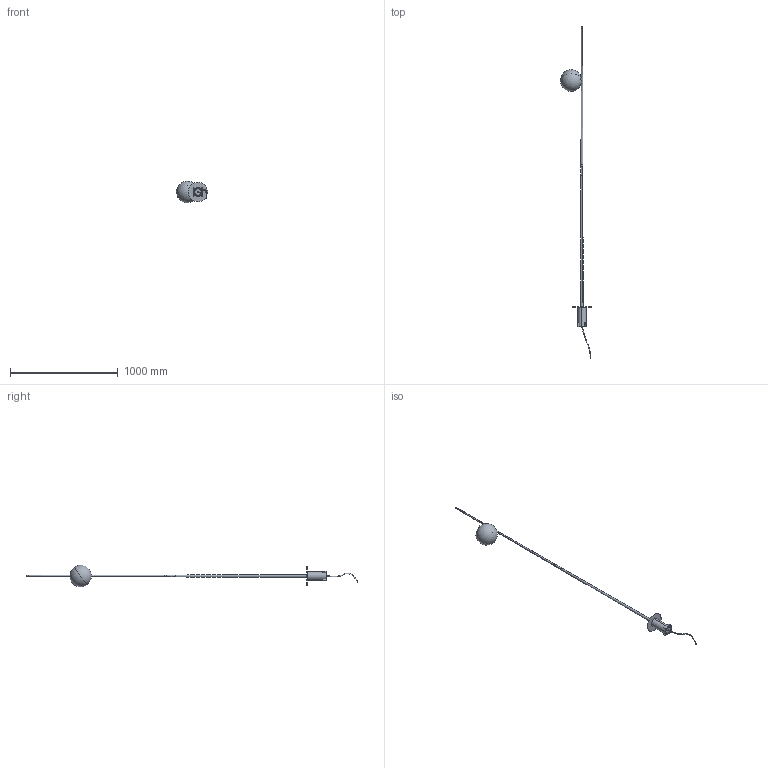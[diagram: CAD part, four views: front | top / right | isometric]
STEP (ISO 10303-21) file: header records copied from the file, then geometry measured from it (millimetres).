
FILE_DESCRIPTION (( 'STEP AP203' ), '1' );
FILE_NAME ('HP302HBEXT.step', '2023-02-16T13:59:29', ( '' ), ( '' ), 'SwSTEP 2.0', 'SolidWorks 2019', '' );
FILE_SCHEMA (( 'CONFIG_CONTROL_DESIGN' ));
Length unit declared in the file: millimetre
Products named in the file (11): PR23MU02-L4; PR23MU02-G; 10CP211AZ  tubo MAT attacco a terra - Nilo; PR23MU02-E; PR23MU02-L8; HP302HBEXT; PR23MU02-F; PR23MU02-D2; PR23MU02-Attacco a terra; Copia di Copia di cavo^HP302HBEXT; 10CP211NZ  piastra MAT - attacco a terra - Nilo
Assembly tree (10 placements, depth 2):
  HP302HBEXT
    PR23MU02-Attacco a terra
    PR23MU02-L4
    PR23MU02-L8
    PR23MU02-D2
    PR23MU02-E
    PR23MU02-F
    PR23MU02-G
    10CP211AZ  tubo MAT attacco a terra - Nilo
    10CP211NZ  piastra MAT - attacco a terra - Nilo
    Copia di Copia di cavo^HP302HBEXT
Bounding box: 288.77 x 3079.61 x 199.93 mm (x, y, z)
Volume: 912645.1 mm3; surface area: 697532.7 mm2
Topology: 10 solids, 10 shells, 222 faces, 553 edges, 340 vertices
Faces by surface type: cylinder 105, plane 59, cone 32, bspline 10, sphere 8, torus 8
Entity records: 10475 total; most frequent: CARTESIAN_POINT 4212, DIRECTION 1096, ORIENTED_EDGE 1046, EDGE_CURVE 523, AXIS2_PLACEMENT_3D 443, VERTEX_POINT 332, EDGE_LOOP 261, FACE_OUTER_BOUND 222
